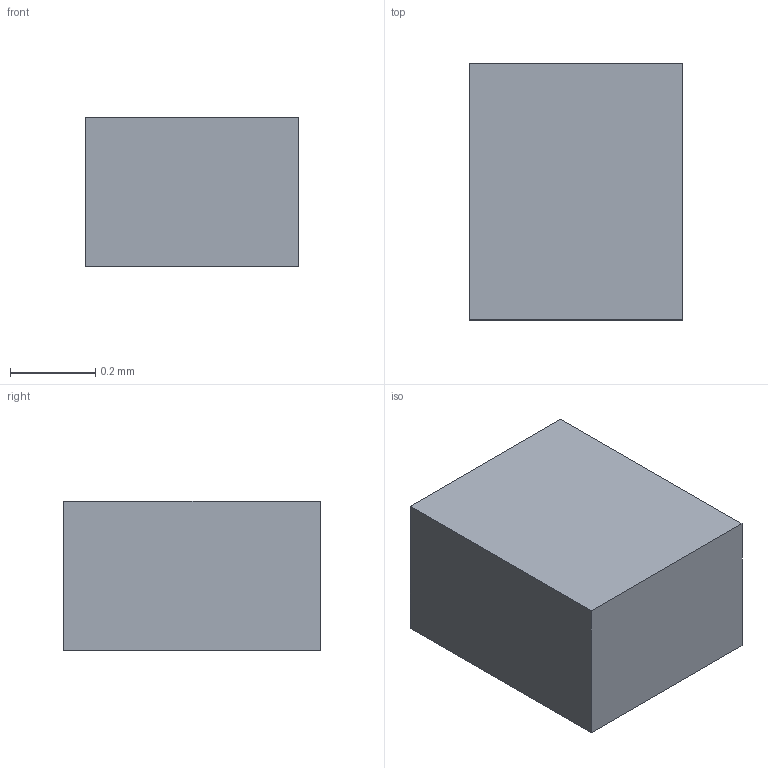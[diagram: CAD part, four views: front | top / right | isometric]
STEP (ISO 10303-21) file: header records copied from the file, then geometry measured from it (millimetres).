
FILE_DESCRIPTION(/* description */ ('STEP AP242 Edition 2','CAx-IF Rec.Pracs.---Representation and Presentation of Product Manufacturing Information (PMI)---4.0---2014-10-13','CAx-IF Rec.Pracs.---3D Tessellated Geometry---0.4---2014-09-14','2;1','CAx-IF Rec.Pracs.---User Defined Attributes---1.5---2016-08-15'),/* implementation_level */ '2;1');
FILE_NAME(/* name */ 'HIRO_Assembly - SMD Resistor, Configurable, Raspberry Pi Pico-R3_R6 (2)',/* time_stamp */ '2026-11-04T05:23:29Z',/* author */ (''),/* organization */ (''),/* preprocessor_version */ 'ST-DEVELOPER v20',/* originating_system */ 'ONSHAPE BY PTC INC, 1.223',/* authorisation */ ' ');
FILE_SCHEMA (('AP242_MANAGED_MODEL_BASED_3D_ENGINEERING_MIM_LF { 1 0 10303 442 3 1 4 }'));
Length unit declared in the file: metre
Products named in the file (1): SMD Resistor, Configurable, Raspberry Pi Pico-R3_R6
Bounding box: 0.5 x 0.6 x 0.35 mm (x, y, z)
Volume: 0.1 mm3; surface area: 1.4 mm2
Topology: 1 solids, 1 shells, 6 faces, 12 edges, 8 vertices
Faces by surface type: plane 6
Entity records: 221 total; most frequent: CARTESIAN_POINT 27, DIRECTION 26, ORIENTED_EDGE 24, EDGE_CURVE 12, LINE 12, VECTOR 12, VERTEX_POINT 8, PRESENTATION_STYLE_ASSIGNMENT 7
